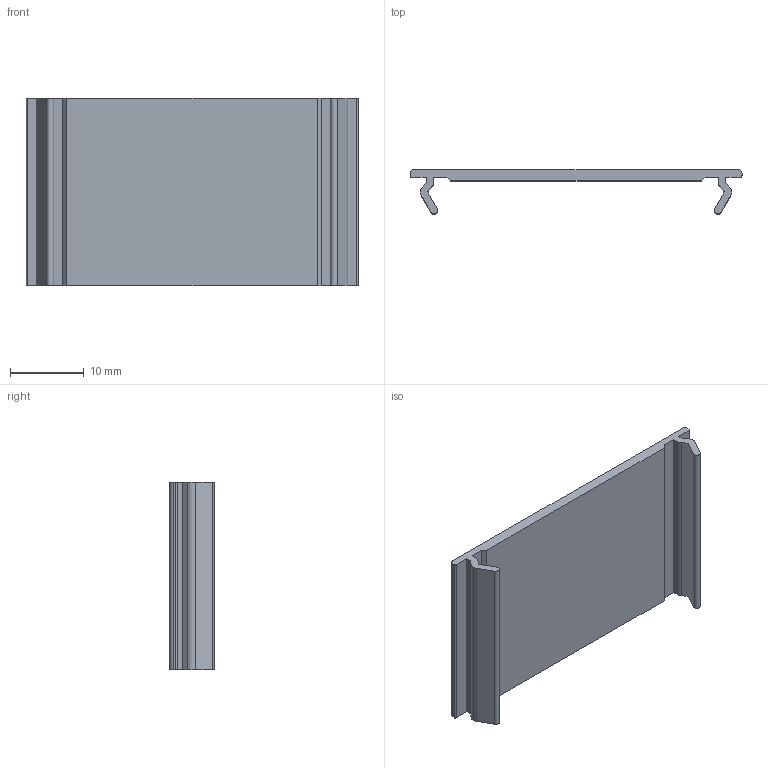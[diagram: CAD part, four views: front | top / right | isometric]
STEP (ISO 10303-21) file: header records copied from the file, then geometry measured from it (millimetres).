
FILE_DESCRIPTION((''),'2;1');
FILE_NAME('C:\Documents and Settings\Administrator\My Documents\Andys Backup Data\ANDY''S INVENTOR\INVENTOR LIBRARIES\MINITEC INVENTOR LIBRARIES\ALUMINUM PROFILES\20.1037 COVER 45X45 R.stp','2008-10-20T15:01:55',('Administrator'),(''),'Autodesk Inventor 2009','Autodesk Inventor 2009','');
FILE_SCHEMA(('AUTOMOTIVE_DESIGN { 1 0 10303 214 1 1 1 1 }'));
Length unit declared in the file: inch
Products named in the file (1): 20.1037 COVER 45X45 R
Bounding box: 45 x 6 x 25.4 mm (x, y, z)
Volume: 1858 mm3; surface area: 3027.4 mm2
Topology: 1 solids, 1 shells, 34 faces, 96 edges, 64 vertices
Faces by surface type: plane 24, cylinder 10
Entity records: 1128 total; most frequent: CARTESIAN_POINT 195, ORIENTED_EDGE 192, DIRECTION 186, EDGE_CURVE 96, VECTOR 76, LINE 76, VERTEX_POINT 64, AXIS2_PLACEMENT_3D 55
